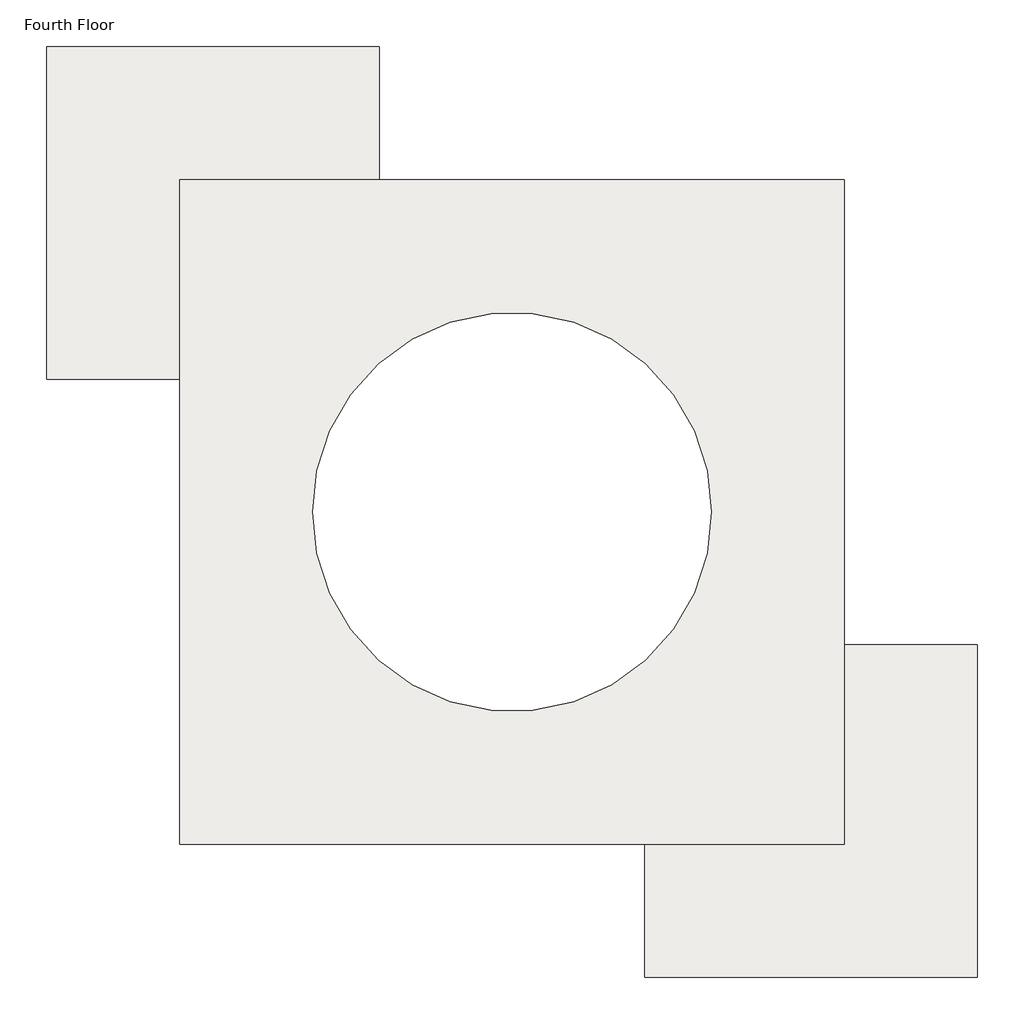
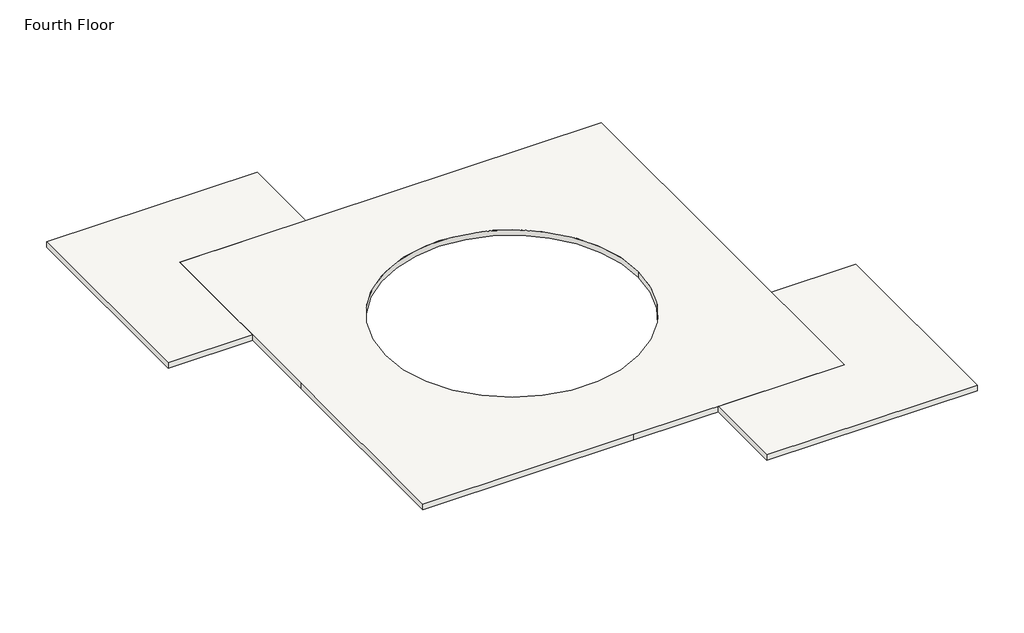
# One storey: 2 slabs.
"""IFC4 building model written with IfcOpenShell, lengths in millimetres."""

import ifcopenshell
import ifcopenshell.guid

model = None  # the IFC model being written
_history = None  # IfcOwnerHistory: only IFC2X3 demands one
_inside = {}  # id of a spatial element -> (the spatial element, [elements in it])
_under = {}  # id of a project, library or spatial element -> (it, [spatial elements below it])
_declared = {}  # id of a project -> (the project, [libraries it declares])
_typed = {}  # id of a type object -> (the type object, [elements of that type])
_made_of = {}  # id of a material, layer set ... -> (it, [elements and type objects made of it])


def new_model(schema):
    """Start an empty IFC model of exactly this schema.

    Asked for "IFC4X3", IfcOpenShell would pick the latest addendum, in which some entities
    have other attributes; the version numbers below select the first issue.
    IFC2X3 requires an IfcOwnerHistory on every rooted entity: one is made here for all.
    """
    global model, _history
    if schema == "IFC4X3":
        model = ifcopenshell.file(schema_version=(4, 3, 0, 0))
    else:
        model = ifcopenshell.file(schema=schema)
    _inside.clear()
    _under.clear()
    _declared.clear()
    _typed.clear()
    _made_of.clear()
    _history = None
    if model.schema == "IFC2X3":
        org = make("IfcOrganization", Name="unknown")
        user = make(
            "IfcPersonAndOrganization",
            ThePerson=make("IfcPerson", FamilyName="unknown"),
            TheOrganization=org,
        )
        app = make(
            "IfcApplication",
            ApplicationDeveloper=org,
            Version="unknown",
            ApplicationFullName="unknown",
            ApplicationIdentifier="unknown",
        )
        _history = make(
            "IfcOwnerHistory",
            OwningUser=user,
            OwningApplication=app,
            ChangeAction="ADDED",
            CreationDate=0,
        )
    return model


def make(cls, **values):
    """One entity of the class cls with the attributes given. An attribute that is None is left unset."""
    return model.create_entity(
        cls, **{name: value for name, value in values.items() if value is not None}
    )


def rooted(cls, **values):
    """An entity with a GlobalId (a new one), such as an element, a storey or a relation."""
    return make(cls, GlobalId=ifcopenshell.guid.new(), OwnerHistory=_history, **values)


def si_unit(unit_type, name, prefix=None):
    """IfcSIUnit, for example si_unit("LENGTHUNIT", "METRE", prefix="MILLI")."""
    return make("IfcSIUnit", UnitType=unit_type, Prefix=prefix, Name=name)


def assignment(units):
    """IfcUnitAssignment: the units of a project."""
    return None if units is None else make("IfcUnitAssignment", Units=units)


def point(xyz):
    """IfcCartesianPoint."""
    return None if xyz is None else make("IfcCartesianPoint", Coordinates=xyz)


def direction(xyz):
    """IfcDirection."""
    return None if xyz is None else make("IfcDirection", DirectionRatios=xyz)


def frame(location, z_axis=None, x_axis=None):
    """IfcAxis2Placement3D, a coordinate frame: its origin and axes. An axis left out is left unset."""
    return make(
        "IfcAxis2Placement3D",
        Location=point(location),
        Axis=direction(z_axis),
        RefDirection=direction(x_axis),
    )


def frame_2d(location, x_axis=None):
    """IfcAxis2Placement2D, a coordinate frame in the plane: its origin and x axis."""
    return make(
        "IfcAxis2Placement2D", Location=point(location), RefDirection=direction(x_axis)
    )


def origin():
    """The frame at (0, 0, 0) with its axes left unset."""
    return frame((0.0, 0.0, 0.0))


def place(relative_to, where):
    """IfcLocalPlacement: puts the frame where relative to a parent placement (None: the world)."""
    return make(
        "IfcLocalPlacement", PlacementRelTo=relative_to, RelativePlacement=where
    )


def context(
    kind, dimensions, precision=None, world=None, true_north=None, identifier=None
):
    """IfcGeometricRepresentationContext, for example the 3D "Model" context."""
    return make(
        "IfcGeometricRepresentationContext",
        ContextIdentifier=identifier,
        ContextType=kind,
        CoordinateSpaceDimension=dimensions,
        Precision=precision,
        WorldCoordinateSystem=world,
        TrueNorth=true_north,
    )


def project(units=None, contexts=None):
    """IfcProject with its units and contexts."""
    return rooted(
        "IfcProject",
        Name="project",
        RepresentationContexts=contexts,
        UnitsInContext=assignment(units),
    )


def spatial(cls, under=None, at=None, **own):
    """A site, building, storey or space (cls), placed at a placement, below another one or the project."""
    s = rooted(cls, ObjectPlacement=at, **own)
    if under is not None:
        _under.setdefault(under.id(), (under, []))[1].append(s)
    return s


def polyline(points):
    """IfcPolyline through the points."""
    return make("IfcPolyline", Points=[point(p) for p in points])


def circle_curve(where, radius):
    """IfcCircle in the frame where."""
    return make("IfcCircle", Position=where, Radius=radius)


def trimmed(basis, trim1, trim2, sense, master):
    """IfcTrimmedCurve: the piece of a basis curve between two trims."""
    return make(
        "IfcTrimmedCurve",
        BasisCurve=basis,
        Trim1=trim1,
        Trim2=trim2,
        SenseAgreement=sense,
        MasterRepresentation=master,
    )


def segment(curve, same_sense, transition):
    """IfcCompositeCurveSegment."""
    return make(
        "IfcCompositeCurveSegment",
        Transition=transition,
        SameSense=same_sense,
        ParentCurve=curve,
    )


def composite_curve(segments, self_intersect=None):
    """IfcCompositeCurve: segments joined end to end."""
    return make("IfcCompositeCurve", Segments=segments, SelfIntersect=self_intersect)


def outline(outer, holes=None, kind="AREA"):
    """IfcArbitraryClosedProfileDef: a profile drawn as a closed curve; with holes, ...WithVoids."""
    if holes is None:
        return make("IfcArbitraryClosedProfileDef", ProfileType=kind, OuterCurve=outer)
    return make(
        "IfcArbitraryProfileDefWithVoids",
        ProfileType=kind,
        OuterCurve=outer,
        InnerCurves=holes,
    )


def extrude(swept, where, along, depth):
    """IfcExtrudedAreaSolid: the profile swept, set in the frame where, extruded along a direction by depth."""
    return make(
        "IfcExtrudedAreaSolid",
        SweptArea=swept,
        Position=where,
        ExtrudedDirection=direction(along),
        Depth=depth,
    )


def shape(context_of_items, identifier, shape_type, items):
    """IfcShapeRepresentation: the items that make up one representation, for example the "Body"."""
    return make(
        "IfcShapeRepresentation",
        ContextOfItems=context_of_items,
        RepresentationIdentifier=identifier,
        RepresentationType=shape_type,
        Items=items,
    )


def made_of(thing, what):
    """Note that an element or type object is made of a material, layer set ...; save() writes the relation."""
    if what is not None:
        _made_of.setdefault(what.id(), (what, []))[1].append(thing)
    return thing


def element(
    cls,
    number,
    at=None,
    inside=None,
    cuts=None,
    type_object=None,
    material=None,
    context=None,
    identifier="Body",
    shape_type=None,
    held_by="IfcProductDefinitionShape",
    body=None,
    shapes=None,
    **own,
):
    """One element of the class cls, such as IfcWall. Its Tag is "e" and its number.

    at: its placement. inside: the storey or other place that contains it. cuts: it is an
    opening in that element (IfcRelVoidsElement). A single representation is given by context,
    identifier, shape_type and body (its items); several are given by shapes. held_by: the class
    of the entity that holds the representations. save() writes the other relations.
    """
    e = rooted(cls, Tag="e%d" % number, ObjectPlacement=at, **own)
    if body is not None:
        shapes = [shape(context, identifier, shape_type, body)]
    if shapes is not None:
        e.Representation = make(held_by, Representations=shapes)
    if inside is not None:
        _inside.setdefault(inside.id(), (inside, []))[1].append(e)
    if cuts is not None:
        rooted(
            "IfcRelVoidsElement", RelatingBuildingElement=cuts, RelatedOpeningElement=e
        )
    if type_object is not None:
        _typed.setdefault(type_object.id(), (type_object, []))[1].append(e)
    return made_of(e, material)


def aggregate(whole, parts):
    """IfcRelAggregates: a whole, such as a stair, and the parts it consists of."""
    return rooted("IfcRelAggregates", RelatingObject=whole, RelatedObjects=parts)


def save(model, path):
    """Write the relations noted so far, then the file.

    IfcRelAggregates (storeys below a building ...), IfcRelContainedInSpatialStructure (elements
    in a storey), IfcRelDefinesByType, IfcRelAssociatesMaterial and IfcRelDeclares: one each for
    every whole, place, type object, material and project.
    """
    for whole, parts in _under.values():
        aggregate(whole, parts)
    for where, things in _inside.values():
        rooted(
            "IfcRelContainedInSpatialStructure",
            RelatedElements=things,
            RelatingStructure=where,
        )
    for kind, things in _typed.values():
        rooted("IfcRelDefinesByType", RelatedObjects=things, RelatingType=kind)
    for what, things in _made_of.values():
        rooted("IfcRelAssociatesMaterial", RelatedObjects=things, RelatingMaterial=what)
    for by, libraries in _declared.values():
        rooted("IfcRelDeclares", RelatingContext=by, RelatedDefinitions=libraries)
    model.write(path)


model = new_model("IFC4")

# Units and contexts
model_context = context("Model", 3, world=origin())
ifc_project = project(units=[si_unit("LENGTHUNIT", "METRE", prefix="MILLI")], contexts=[model_context])

# Site, building, storey
site = spatial("IfcSite", under=ifc_project)
building = spatial("IfcBuilding", under=site)
storey = spatial("IfcBuildingStorey", under=building, Name="Fourth Floor", Elevation=9144.0)

# Slabs
placement = place(None, origin())
element("IfcSlab", 1, ObjectType="160mm Concrete With 50mm Metal Deck", at=placement, inside=storey, context=model_context, shape_type="SweptSolid", body=[
    extrude(outline(polyline([(8463.0350085, 7792.852658), (8463.0350085, -7447.147342), (843.0350085, -7447.147342), (-6776.9649915, -7447.147342), (-6776.9649915, 172.852658), (-6776.9649915, 7792.852658), (8463.0350085, 7792.852658)]), holes=[composite_curve([segment(trimmed(circle_curve(frame_2d((843.0350085, 172.852658)), 4572.0), [point((5415.0350085, 172.852658))], [point((-3728.9649915, 172.852658))], True, "CARTESIAN"), True, "CONTINUOUS"), segment(trimmed(circle_curve(frame_2d((843.0350085, 172.852658)), 4572.0), [point((-3728.9649915, 172.852658))], [point((5415.0350085, 172.852658))], True, "CARTESIAN"), True, "CONTINUOUS")], self_intersect=False)]), frame((0.0, 0.0, 8934.0), z_axis=(0.0, 0.0, 1.0), x_axis=(1.0, 0.0, 0.0)), (0.0, 0.0, 1.0), 210.0),
])
element("IfcSlab", 2, ObjectType="160mm Concrete With 50mm Metal Deck", at=placement, inside=storey, context=model_context, shape_type="SweptSolid", body=[
    extrude(outline(polyline([(-2204.9649915, 7792.852658), (-6776.9649915, 7792.852658), (-6776.9649915, 3220.852658), (-9824.9649915, 3220.852658), (-9824.9649915, 10840.852658), (-2204.9649915, 10840.852658), (-2204.9649915, 7792.852658)])), frame((0.0, 0.0, 8934.0), z_axis=(0.0, 0.0, 1.0), x_axis=(1.0, 0.0, 0.0)), (0.0, 0.0, 1.0), 210.0),
    extrude(outline(polyline([(8463.0350085, -2875.147342), (11511.0350085, -2875.147342), (11511.0350085, -10495.147342), (3891.0350085, -10495.147342), (3891.0350085, -7447.147342), (8463.0350085, -7447.147342), (8463.0350085, -2875.147342)])), frame((0.0, 0.0, 8934.0), z_axis=(0.0, 0.0, 1.0), x_axis=(1.0, 0.0, 0.0)), (0.0, 0.0, 1.0), 210.0),
])

save(model, "model.ifc")
